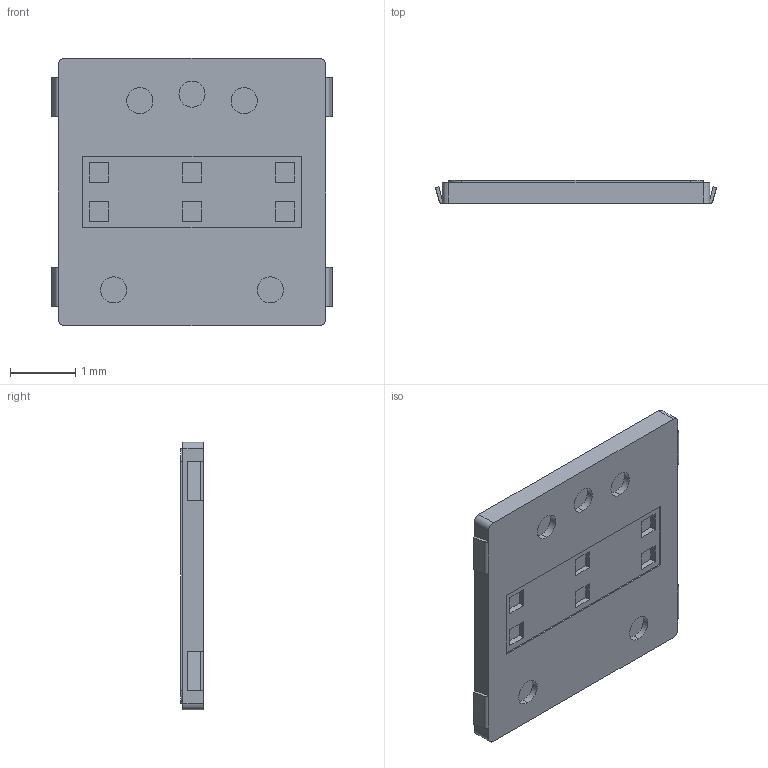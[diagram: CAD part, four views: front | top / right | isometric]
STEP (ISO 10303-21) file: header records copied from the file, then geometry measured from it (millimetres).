
FILE_DESCRIPTION (( 'STEP AP203' ), '1' );
FILE_NAME ('EVQP6DB35.STEP', '2013-04-05T03:30:18', ( '' ), ( '' ), 'SwSTEP 2.0', 'SolidWorks 2011', '' );
FILE_SCHEMA (( 'CONFIG_CONTROL_DESIGN' ));
Length unit declared in the file: millimetre
Products named in the file (1): EVQP6DB35
Bounding box: 4.3 x 0.35 x 4.1 mm (x, y, z)
Volume: 5.7 mm3; surface area: 42 mm2
Topology: 1 solids, 1 shells, 93 faces, 226 edges, 148 vertices
Faces by surface type: plane 71, cylinder 22
Entity records: 2777 total; most frequent: CARTESIAN_POINT 468, DIRECTION 458, ORIENTED_EDGE 452, EDGE_CURVE 226, LINE 182, VECTOR 182, VERTEX_POINT 148, AXIS2_PLACEMENT_3D 138
